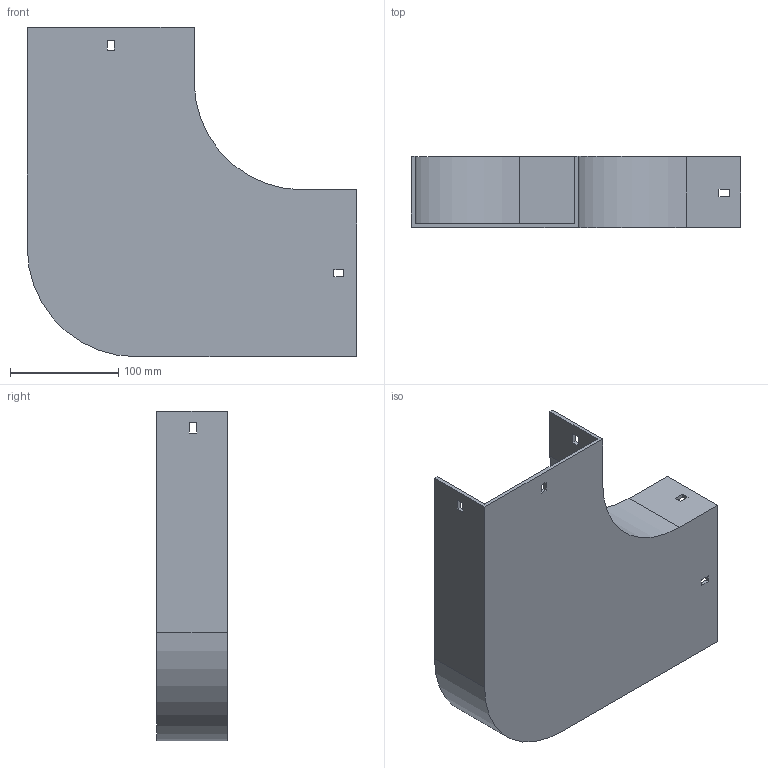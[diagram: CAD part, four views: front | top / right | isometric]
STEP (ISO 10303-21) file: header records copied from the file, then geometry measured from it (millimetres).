
FILE_DESCRIPTION (( 'STEP AP214' ), '1' );
FILE_NAME ('10B1H150.step', '2025-02-21T09:41:03', ( '' ), ( '' ), 'SwSTEP 2.0', 'SolidWorks 2023', '' );
FILE_SCHEMA (( 'AUTOMOTIVE_DESIGN' ));
Length unit declared in the file: millimetre
Products named in the file (1): 10B1H150
Bounding box: 304 x 65.5 x 304 mm (x, y, z)
Volume: 421725.1 mm3; surface area: 246502.3 mm2
Topology: 1 solids, 1 shells, 42 faces, 120 edges, 80 vertices
Faces by surface type: plane 38, cylinder 4
Entity records: 1399 total; most frequent: CARTESIAN_POINT 243, ORIENTED_EDGE 240, DIRECTION 214, EDGE_CURVE 120, LINE 112, VECTOR 112, VERTEX_POINT 80, EDGE_LOOP 54
